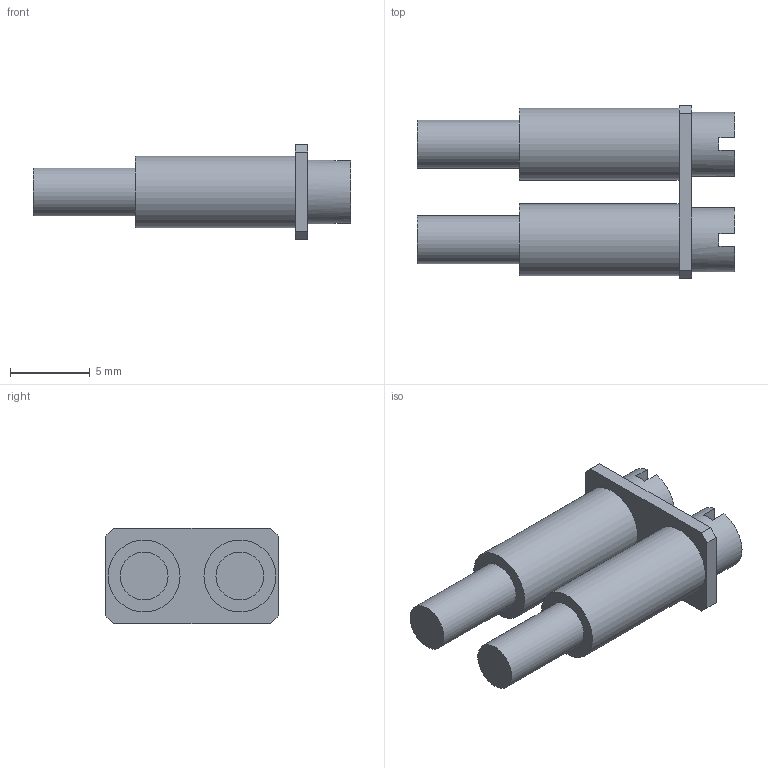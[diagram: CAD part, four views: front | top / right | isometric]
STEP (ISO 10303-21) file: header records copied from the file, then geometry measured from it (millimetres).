
FILE_DESCRIPTION(('Open CASCADE Model'),'2;1');
FILE_NAME('Open CASCADE Shape Model','2024-01-09T11:04:43',('Author'),( 'Open CASCADE'),'Open CASCADE STEP processor 6.5','Open CASCADE 6.5' ,'Unknown');
FILE_SCHEMA(('AUTOMOTIVE_DESIGN { 1 0 10303 214 1 1 1 1 }'));
Length unit declared in the file: millimetre
Products named in the file (31): CADSOFTTOOLS 1; CADSOFTTOOLS 1.1; CADSOFTTOOLS 1.2; CADSOFTTOOLS 1.3; CADSOFTTOOLS 1.4; CADSOFTTOOLS 1.5; CADSOFTTOOLS 1.6; CADSOFTTOOLS 1.7; CADSOFTTOOLS 1.8; CADSOFTTOOLS 1.9; CADSOFTTOOLS 1.10; CADSOFTTOOLS 1.11; CADSOFTTOOLS 1.12; CADSOFTTOOLS 1.13; CADSOFTTOOLS 1.14; CADSOFTTOOLS 1.15; CADSOFTTOOLS 1.16; CADSOFTTOOLS 1.17; CADSOFTTOOLS 1.18; CADSOFTTOOLS 1.19; CADSOFTTOOLS 1.20; CADSOFTTOOLS 1.21; CADSOFTTOOLS 1.22; CADSOFTTOOLS 1.23; CADSOFTTOOLS 1.24; CADSOFTTOOLS 1.25; CADSOFTTOOLS 1.26; CADSOFTTOOLS 1.27; CADSOFTTOOLS 1.28; CADSOFTTOOLS 1.29; CADSOFTTOOLS 1.30
Assembly tree (30 placements, depth 2):
  CADSOFTTOOLS 1
    CADSOFTTOOLS 1.1
    CADSOFTTOOLS 1.2
    CADSOFTTOOLS 1.3
    CADSOFTTOOLS 1.4
    CADSOFTTOOLS 1.5
    CADSOFTTOOLS 1.6
    CADSOFTTOOLS 1.7
    CADSOFTTOOLS 1.8
    CADSOFTTOOLS 1.9
    CADSOFTTOOLS 1.10
    CADSOFTTOOLS 1.11
    CADSOFTTOOLS 1.12
    CADSOFTTOOLS 1.13
    CADSOFTTOOLS 1.14
    CADSOFTTOOLS 1.15
    CADSOFTTOOLS 1.16
    CADSOFTTOOLS 1.17
    CADSOFTTOOLS 1.18
    CADSOFTTOOLS 1.19
    CADSOFTTOOLS 1.20
    CADSOFTTOOLS 1.21
    CADSOFTTOOLS 1.22
    CADSOFTTOOLS 1.23
    CADSOFTTOOLS 1.24
    CADSOFTTOOLS 1.25
    CADSOFTTOOLS 1.26
    CADSOFTTOOLS 1.27
    CADSOFTTOOLS 1.28
    CADSOFTTOOLS 1.29
    CADSOFTTOOLS 1.30
Bounding box: 19.9 x 10.8 x 6 mm (x, y, z)
Surface area: 638.2 mm2 (no closed solid volume)
Topology: 0 solids, 30 shells, 30 faces, 130 edges, 124 vertices
Faces by surface type: plane 24, cylinder 6
Full cylindrical faces by diameter (mm): 3 x2, 4 x2, 4.5 x2
Entity records: 2874 total; most frequent: CARTESIAN_POINT 523, DIRECTION 390, LINE 164, VECTOR 164, ORIENTED_EDGE 136, PCURVE 136, DEFINITIONAL_REPRESENTATION 136, EDGE_CURVE 130
